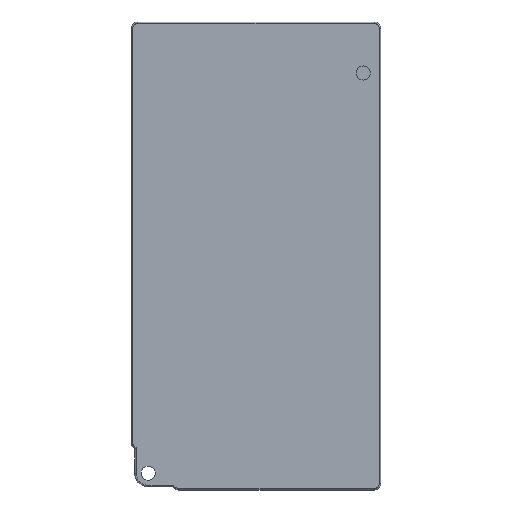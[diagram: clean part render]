
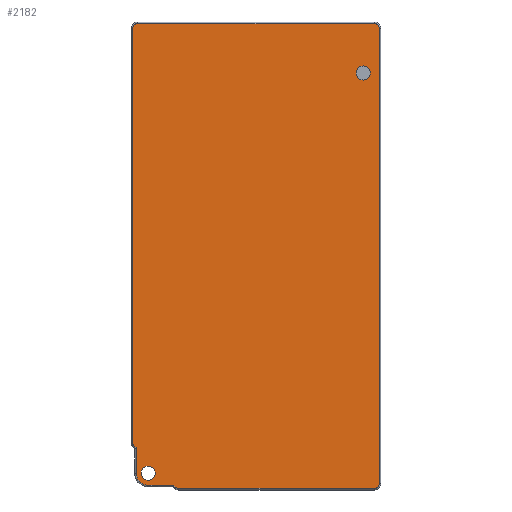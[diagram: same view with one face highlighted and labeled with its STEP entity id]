
A CAD part, front view. The second image highlights one B-rep face of the part: STEP entity #2182.
In plain terms, the highlighted planar face has unit normal (0, -1, 0).
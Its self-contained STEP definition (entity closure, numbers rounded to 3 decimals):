
#138=CARTESIAN_POINT('',(34.2,0.,58.75));
#139=DIRECTION('',(0.,1.,0.));
#140=DIRECTION('',(-1.,0.,0.));
#141=AXIS2_PLACEMENT_3D('',#138,#139,#140);
#146=CARTESIAN_POINT('',(34.2,0.,58.75));
#147=DIRECTION('',(0.,1.,0.));
#148=DIRECTION('',(1.,0.,0.));
#149=AXIS2_PLACEMENT_3D('',#146,#147,#148);
#154=CARTESIAN_POINT('',(-34.35,0.,-68.85));
#155=DIRECTION('',(0.,-1.,0.));
#156=DIRECTION('',(1.,0.,0.));
#157=AXIS2_PLACEMENT_3D('',#154,#155,#156);
#162=CARTESIAN_POINT('',(-34.35,0.,-68.85));
#163=DIRECTION('',(0.,-1.,0.));
#164=DIRECTION('',(-1.,0.,0.));
#165=AXIS2_PLACEMENT_3D('',#162,#163,#164);
#170=DIRECTION('',(1.,0.,0.));
#171=VECTOR('',#170,8.151);
#172=CARTESIAN_POINT('',(-34.45,0.,-72.65));
#173=LINE('',#172,#171);
#177=CARTESIAN_POINT('',(-34.45,0.,-68.95));
#178=DIRECTION('',(0.,-1.,0.));
#179=DIRECTION('',(-1.,0.,0.));
#180=AXIS2_PLACEMENT_3D('',#177,#178,#179);
#185=DIRECTION('',(0.,0.,-1.));
#186=VECTOR('',#185,8.151);
#187=CARTESIAN_POINT('',(-38.15,0.,-60.799));
#188=LINE('',#187,#186);
#192=DIRECTION('',(0.707,0.,-0.707));
#193=VECTOR('',#192,1.349);
#194=CARTESIAN_POINT('',(-39.104,0.,-59.845));
#195=LINE('',#194,#193);
#199=CARTESIAN_POINT('',(-38.75,0.,-59.492));
#200=DIRECTION('',(0.,-1.,0.));
#201=DIRECTION('',(-1.,0.,0.));
#202=AXIS2_PLACEMENT_3D('',#199,#200,#201);
#207=DIRECTION('',(0.,0.,-1.));
#208=VECTOR('',#207,132.492);
#209=CARTESIAN_POINT('',(-39.25,0.,73.));
#210=LINE('',#209,#208);
#214=CARTESIAN_POINT('',(-37.75,0.,73.));
#215=DIRECTION('',(0.,-1.,0.));
#216=DIRECTION('',(0.,0.,1.));
#217=AXIS2_PLACEMENT_3D('',#214,#215,#216);
#222=DIRECTION('',(-1.,0.,0.));
#223=VECTOR('',#222,75.5);
#224=CARTESIAN_POINT('',(37.75,0.,74.5));
#225=LINE('',#224,#223);
#229=CARTESIAN_POINT('',(37.75,0.,73.));
#230=DIRECTION('',(0.,-1.,0.));
#231=DIRECTION('',(1.,0.,0.));
#232=AXIS2_PLACEMENT_3D('',#229,#230,#231);
#237=DIRECTION('',(0.,0.,1.));
#238=VECTOR('',#237,145.188);
#239=CARTESIAN_POINT('',(39.25,0.,-72.188));
#240=LINE('',#239,#238);
#244=CARTESIAN_POINT('',(37.75,0.,-72.188));
#245=DIRECTION('',(0.,-1.,0.));
#246=DIRECTION('',(0.,0.,-1.));
#247=AXIS2_PLACEMENT_3D('',#244,#245,#246);
#252=DIRECTION('',(1.,0.,0.));
#253=VECTOR('',#252,62.39);
#254=CARTESIAN_POINT('',(-24.64,0.,-73.688));
#255=LINE('',#254,#253);
#259=CARTESIAN_POINT('',(-24.64,0.,-72.188));
#260=DIRECTION('',(0.,-1.,0.));
#261=DIRECTION('',(-0.707,0.,-0.707));
#262=AXIS2_PLACEMENT_3D('',#259,#260,#261);
#267=DIRECTION('',(0.707,0.,-0.707));
#268=VECTOR('',#267,0.846);
#269=CARTESIAN_POINT('',(-26.299,0.,-72.65));
#270=LINE('',#269,#268);
#1816=CARTESIAN_POINT('',(31.95,0.,58.75));
#1817=CARTESIAN_POINT('',(36.45,0.,58.75));
#1818=VERTEX_POINT('',#1816);
#1819=VERTEX_POINT('',#1817);
#1826=CARTESIAN_POINT('',(-32.1,0.,-68.85));
#1827=CARTESIAN_POINT('',(-36.6,0.,-68.85));
#1828=VERTEX_POINT('',#1826);
#1829=VERTEX_POINT('',#1827);
#1957=CARTESIAN_POINT('',(-34.45,0.,-72.65));
#1958=CARTESIAN_POINT('',(-26.299,0.,-72.65));
#1959=VERTEX_POINT('',#1957);
#1960=VERTEX_POINT('',#1958);
#1961=CARTESIAN_POINT('',(-38.15,0.,-68.95));
#1962=VERTEX_POINT('',#1961);
#1965=CARTESIAN_POINT('',(-38.15,0.,-60.799));
#1966=VERTEX_POINT('',#1965);
#1969=CARTESIAN_POINT('',(-25.7,0.,-73.249));
#1970=VERTEX_POINT('',#1969);
#1973=CARTESIAN_POINT('',(-24.64,0.,-73.688));
#1974=VERTEX_POINT('',#1973);
#1977=CARTESIAN_POINT('',(37.75,0.,-73.688));
#1978=VERTEX_POINT('',#1977);
#1981=CARTESIAN_POINT('',(39.25,0.,-72.188));
#1982=VERTEX_POINT('',#1981);
#1985=CARTESIAN_POINT('',(39.25,0.,73.));
#1986=VERTEX_POINT('',#1985);
#1989=CARTESIAN_POINT('',(37.75,0.,74.5));
#1990=VERTEX_POINT('',#1989);
#1993=CARTESIAN_POINT('',(-37.75,0.,74.5));
#1994=VERTEX_POINT('',#1993);
#1997=CARTESIAN_POINT('',(-39.25,0.,73.));
#1998=VERTEX_POINT('',#1997);
#2001=CARTESIAN_POINT('',(-39.25,0.,-59.492));
#2002=VERTEX_POINT('',#2001);
#2005=CARTESIAN_POINT('',(-39.104,0.,-59.845));
#2006=VERTEX_POINT('',#2005);
#2136=CARTESIAN_POINT('',(-39.75,0.,75.));
#2137=DIRECTION('',(0.,-1.,0.));
#2138=DIRECTION('',(0.,0.,-1.));
#2139=AXIS2_PLACEMENT_3D('',#2136,#2137,#2138);
#2140=PLANE('',#2139);
#2142=ORIENTED_EDGE('',*,*,#2141,.F.);
#2144=ORIENTED_EDGE('',*,*,#2143,.F.);
#2146=ORIENTED_EDGE('',*,*,#2145,.F.);
#2148=ORIENTED_EDGE('',*,*,#2147,.F.);
#2150=ORIENTED_EDGE('',*,*,#2149,.F.);
#2151=ORIENTED_EDGE('',*,*,#2126,.F.);
#2153=ORIENTED_EDGE('',*,*,#2152,.F.);
#2155=ORIENTED_EDGE('',*,*,#2154,.F.);
#2157=ORIENTED_EDGE('',*,*,#2156,.F.);
#2159=ORIENTED_EDGE('',*,*,#2158,.F.);
#2161=ORIENTED_EDGE('',*,*,#2160,.F.);
#2163=ORIENTED_EDGE('',*,*,#2162,.F.);
#2165=ORIENTED_EDGE('',*,*,#2164,.F.);
#2167=ORIENTED_EDGE('',*,*,#2166,.F.);
#2168=EDGE_LOOP('',(#2142,#2144,#2146,#2148,#2150,#2151,#2153,#2155,#2157,#2159,
#2161,#2163,#2165,#2167));
#2169=FACE_OUTER_BOUND('',#2168,.F.);
#2171=ORIENTED_EDGE('',*,*,#2170,.T.);
#2173=ORIENTED_EDGE('',*,*,#2172,.T.);
#2174=EDGE_LOOP('',(#2171,#2173));
#2175=FACE_BOUND('',#2174,.F.);
#2177=ORIENTED_EDGE('',*,*,#2176,.F.);
#2179=ORIENTED_EDGE('',*,*,#2178,.F.);
#2180=EDGE_LOOP('',(#2177,#2179));
#2181=FACE_BOUND('',#2180,.F.);
#142=CIRCLE('',#141,2.25);
#150=CIRCLE('',#149,2.25);
#158=CIRCLE('',#157,2.25);
#166=CIRCLE('',#165,2.25);
#181=CIRCLE('',#180,3.7);
#203=CIRCLE('',#202,0.5);
#218=CIRCLE('',#217,1.5);
#233=CIRCLE('',#232,1.5);
#248=CIRCLE('',#247,1.5);
#263=CIRCLE('',#262,1.5);
#2126=EDGE_CURVE('',#1998,#2002,#210,.T.);
#2141=EDGE_CURVE('',#1959,#1960,#173,.T.);
#2143=EDGE_CURVE('',#1962,#1959,#181,.T.);
#2145=EDGE_CURVE('',#1966,#1962,#188,.T.);
#2147=EDGE_CURVE('',#2006,#1966,#195,.T.);
#2149=EDGE_CURVE('',#2002,#2006,#203,.T.);
#2152=EDGE_CURVE('',#1994,#1998,#218,.T.);
#2154=EDGE_CURVE('',#1990,#1994,#225,.T.);
#2156=EDGE_CURVE('',#1986,#1990,#233,.T.);
#2158=EDGE_CURVE('',#1982,#1986,#240,.T.);
#2160=EDGE_CURVE('',#1978,#1982,#248,.T.);
#2162=EDGE_CURVE('',#1974,#1978,#255,.T.);
#2164=EDGE_CURVE('',#1970,#1974,#263,.T.);
#2166=EDGE_CURVE('',#1960,#1970,#270,.T.);
#2170=EDGE_CURVE('',#1828,#1829,#158,.T.);
#2172=EDGE_CURVE('',#1829,#1828,#166,.T.);
#2176=EDGE_CURVE('',#1818,#1819,#142,.T.);
#2178=EDGE_CURVE('',#1819,#1818,#150,.T.);
#2182=ADVANCED_FACE('',(#2169,#2175,#2181),#2140,.T.);
